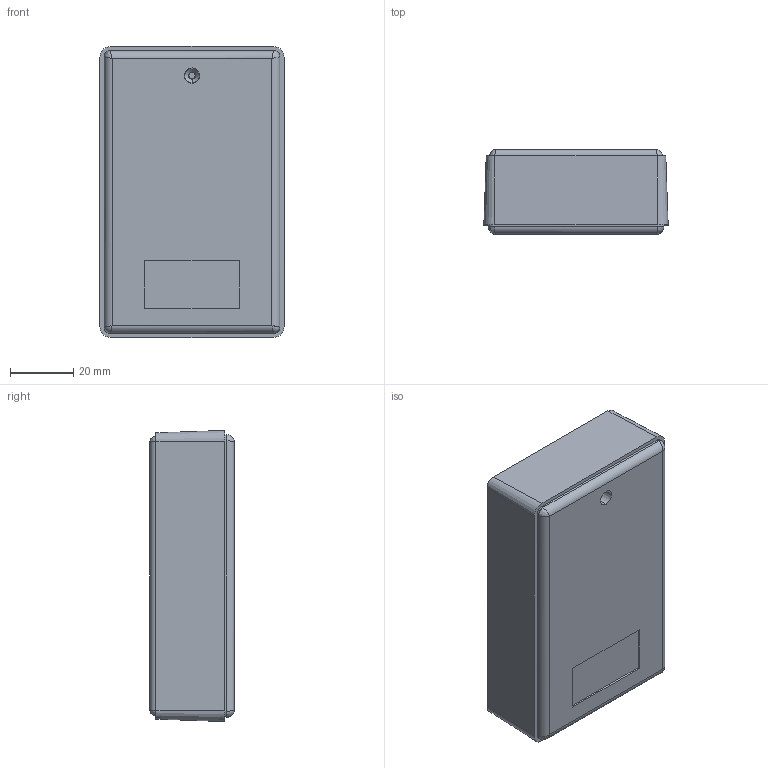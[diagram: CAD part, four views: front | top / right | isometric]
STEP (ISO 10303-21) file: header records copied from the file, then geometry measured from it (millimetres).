
FILE_DESCRIPTION (( 'STEP AP203' ), '1' );
FILE_NAME ('HH-020-0-0.STEP', '2016-05-09T11:26:08', ( '' ), ( '' ), 'SwSTEP 2.0', 'SolidWorks 2014', '' );
FILE_SCHEMA (( 'CONFIG_CONTROL_DESIGN' ));
Length unit declared in the file: millimetre
Products named in the file (3): HH-020-0-0; HH-020-P-1; HH-020-P-2
Assembly tree (2 placements, depth 2):
  HH-020-0-0
    HH-020-P-2
    HH-020-P-1
Bounding box: 58.3 x 26.8 x 92.1 mm (x, y, z)
Volume: 36788.8 mm3; surface area: 36329.8 mm2
Topology: 2 solids, 2 shells, 131 faces, 318 edges, 200 vertices
Faces by surface type: plane 61, cylinder 32, cone 30, bspline 8
Entity records: 6783 total; most frequent: CARTESIAN_POINT 3444, DIRECTION 642, ORIENTED_EDGE 620, EDGE_CURVE 310, AXIS2_PLACEMENT_3D 228, VERTEX_POINT 200, VECTOR 186, LINE 186
